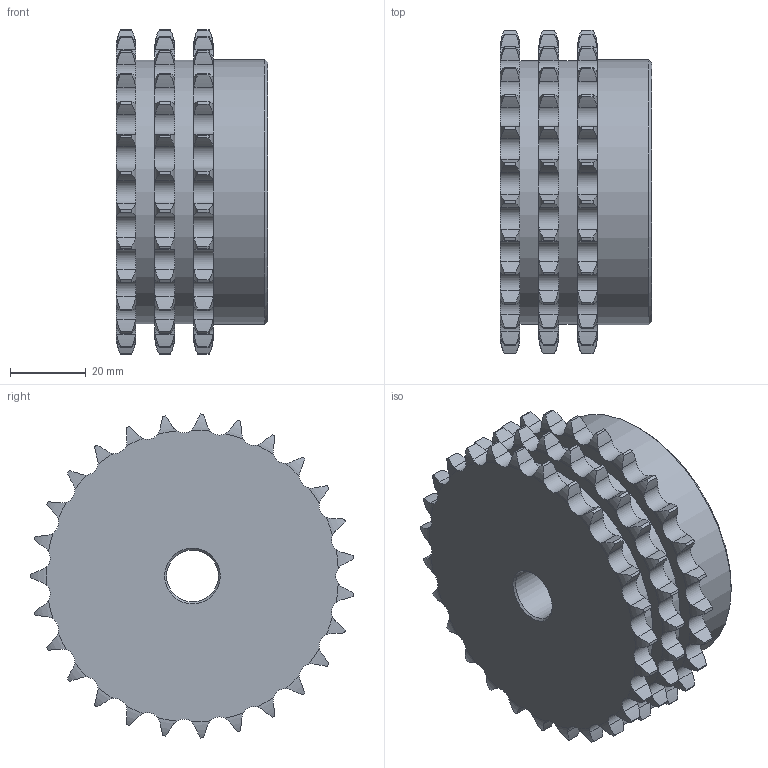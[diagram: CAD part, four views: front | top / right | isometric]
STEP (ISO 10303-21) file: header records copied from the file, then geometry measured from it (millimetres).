
FILE_DESCRIPTION(/* description */ (''),/* implementation_level */ '2;1');
FILE_NAME(/* name */ 'C:\Users\stagistaCAD\Desktop\10309027.stp',/* time_stamp */ '2018-06-13T09:44:39+02:00',/* author */ ('stagistacad'),/* organization */ (''),/* preprocessor_version */ 'ST-DEVELOPER v15.6',/* originating_system */ 'Autodesk Inventor 2015',/* authorisation */ '');
FILE_SCHEMA (('AUTOMOTIVE_DESIGN { 1 0 10303 214 3 1 1 }'));
Length unit declared in the file: millimetre
Products named in the file (1): 10309027
Bounding box: 40 x 85.45 x 85.6 mm (x, y, z)
Volume: 164063.9 mm3; surface area: 26548.4 mm2
Topology: 1 solids, 1 shells, 500 faces, 1476 edges, 983 vertices
Faces by surface type: cylinder 328, torus 162, plane 7, cone 3
Full cylindrical faces by diameter (mm): 13.7 x1, 69.7 x2, 70 x1
Entity records: 18474 total; most frequent: CARTESIAN_POINT 5917, ORIENTED_EDGE 2938, DIRECTION 2320, EDGE_CURVE 1469, AXIS2_PLACEMENT_3D 998, VERTEX_POINT 983, B_SPLINE_CURVE_WITH_KNOTS 648, EDGE_LOOP 514
